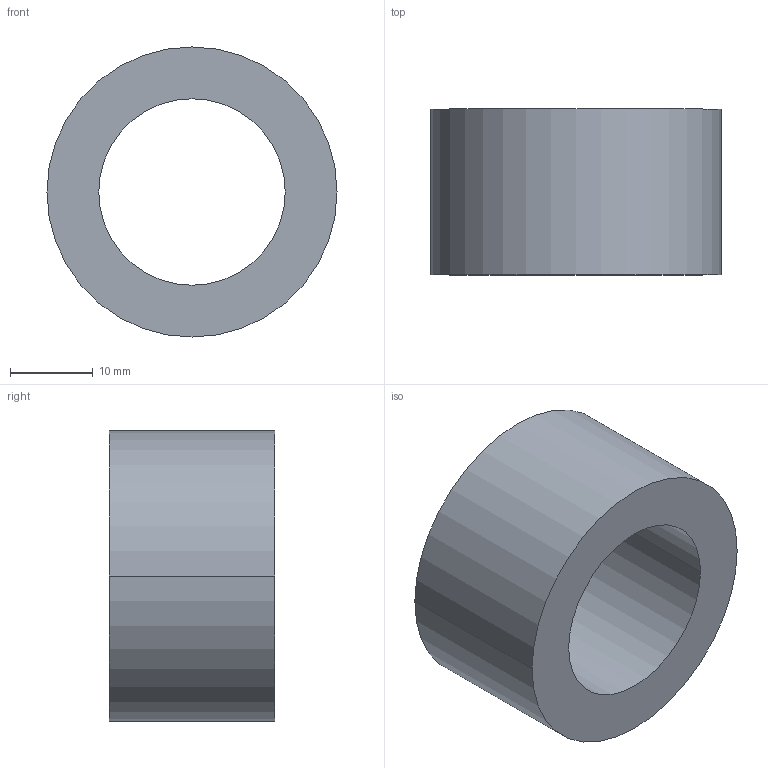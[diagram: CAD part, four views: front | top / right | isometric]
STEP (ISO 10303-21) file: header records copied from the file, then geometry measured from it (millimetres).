
FILE_DESCRIPTION (( 'STEP AP203' ), '1' );
FILE_NAME ('30800.WPP35H22.5.step', '2019-01-23T22:48:05', ( '' ), ( '' ), 'SwSTEP 2.0', 'SolidWorks 2017', '' );
FILE_SCHEMA (( 'CONFIG_CONTROL_DESIGN' ));
Length unit declared in the file: millimetre
Products named in the file (1): 30800.WPP35H22.5
Bounding box: 35 x 20 x 35 mm (x, y, z)
Volume: 11145.4 mm3; surface area: 4654.8 mm2
Topology: 1 solids, 1 shells, 8 faces, 16 edges, 10 vertices
Faces by surface type: cylinder 4, torus 2, plane 2
Entity records: 297 total; most frequent: DIRECTION 46, CARTESIAN_POINT 35, ORIENTED_EDGE 32, AXIS2_PLACEMENT_3D 21, EDGE_CURVE 16, CIRCLE 12, VERTEX_POINT 10, EDGE_LOOP 10
